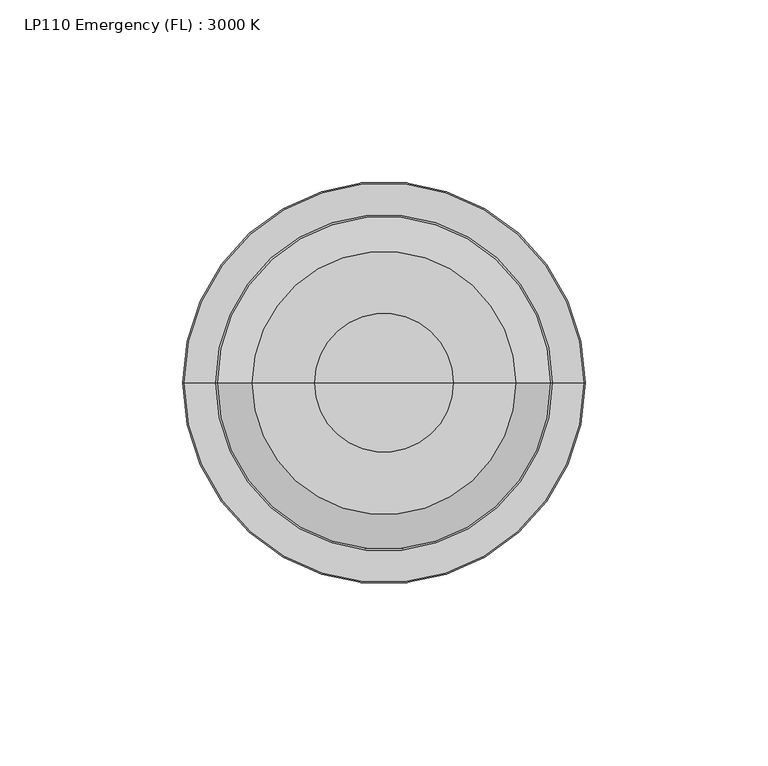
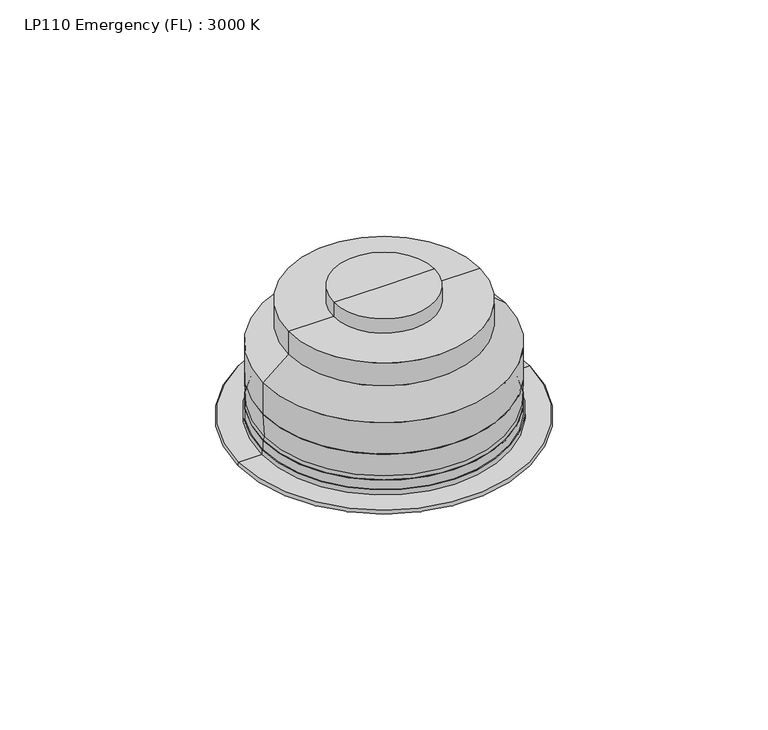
"""IFC4 building model written with IfcOpenShell, lengths in millimetres: light fixture geometry, LP110 Emergency (FL) : 3000 K."""

from ifc_helpers import new_model, si_unit, point, frame, frame_2d, origin, origin_2d, place, context, project, spatial, polyline, circle_curve, ellipse_curve, trimmed, segment, composite_curve, outline, extrude, source, transform, mapped, element, save
from ifc_brep_helpers import plane_surface, cylinder_surface, revolved_surface, advanced_brep


def lp110_emergency_fl_3000_k_65061e34(model_context):
    return source(origin(), model_context, "Body", "SolidModel", [
        extrude(outline(composite_curve([segment(trimmed(circle_curve(origin_2d(), 0.9445445), [point((-0.9445445, 0.0))], [point((0.9445445, 0.0))], False, "CARTESIAN"), True, "CONTINUOUS"), segment(trimmed(circle_curve(origin_2d(), 0.9445445), [point((0.9445445, 0.0))], [point((-0.9445445, 0.0))], False, "CARTESIAN"), True, "CONTINUOUS")], self_intersect=False)), frame((0.0, 0.0, 3990.3316649), z_axis=(0.0, 0.0, 1.0), x_axis=(1.0, 0.0, 0.0)), (0.0, 0.0, 1.0), 1.4901542),
        advanced_brep(
        [(25.068584, 0.0, 3992.3208918), (-25.068584, 0.0, 3992.3208918), (0.0, 0.0, 3992.3208918), (7.7244588, 0.0, 3987.9582117), (-7.7244588, 0.0, 3987.9582117), (0.0, 0.0, 3991.0338637)],
        [
            (0, 1, circle_curve(frame((0.0, 0.0, 3992.3208918), z_axis=(0.0, 0.0, 1.0), x_axis=(-1.0, 0.0, 0.0)), 25.068584)),
            (1, 2),
            (2, 0),
            (1, 0, circle_curve(frame((0.0, 0.0, 3992.3208918), z_axis=(0.0, 0.0, 1.0), x_axis=(-1.0, 0.0, 0.0)), 25.068584)),
            (3, 4, circle_curve(frame((0.0, 0.0, 3987.9582117), z_axis=(0.0, 0.0, 1.0), x_axis=(-1.0, 0.0, 0.0)), 7.7244588)),
            (4, 1),
            (0, 3),
            (4, 3, circle_curve(frame((0.0, 0.0, 3987.9582117), z_axis=(0.0, 0.0, 1.0), x_axis=(-1.0, 0.0, 0.0)), 7.7244588)),
            (5, 4, circle_curve(frame((0.0, 0.0, 3979.7961004), z_axis=(0.0, -1.0, 0.0), x_axis=(1.0, 0.0, 0.0)), 11.2377633)),
            (3, 5, circle_curve(frame((0.0, 0.0, 3979.7961004), z_axis=(0.0, -1.0, 0.0), x_axis=(-1.0, 0.0, 0.0)), 11.2377633)),
        ],
        [
            plane_surface(frame((0.0, 0.0, 3992.3208918), z_axis=(0.0, 0.0, 1.0), x_axis=(-1.0, 0.0, 0.0))),
            revolved_surface(polyline([(-25.068584, 0.0, 3992.3208918), (-7.7244588, 0.0, 3987.9582117)]), (0.0, 0.0, 4324.4347907), (0.0, 0.0, -1.0)),
            revolved_surface(trimmed(ellipse_curve(frame((0.0, 0.0, 3979.7961004), z_axis=(0.0, 1.0, 0.0), x_axis=(1.0, 0.0, 0.0)), 11.2377633, 11.2377633), [point((-7.7244588, 0.0, 3987.9582117))], [point((0.0, 0.0, 3991.0338637))], True, "CARTESIAN"), (0.0, 0.0, 4324.4347907), (0.0, 0.0, -1.0)),
        ],
        [
            (0, [[1, 2, 3]]),
            (0, [[4, -3, -2]]),
            (1, [[5, 6, -1, 7]]),
            (1, [[8, -7, -4, -6]]),
            (2, [[9, -5, 10]]),
            (2, [[-10, -8, -9]]),
        ],
    ),
        advanced_brep(
        [(25.068584, 0.0, 3992.3208918), (-25.068584, 0.0, 3992.3208918), (-30.7872894, 0.0, 3994.29), (30.7872894, 0.0, 3994.29), (0.0, 0.0, 3992.3208918), (0.0, 0.0, 3994.29)],
        [
            (0, 1, circle_curve(frame((0.0, 0.0, 3992.3208918), z_axis=(0.0, 0.0, 1.0), x_axis=(-1.0, 0.0, 0.0)), 25.068584)),
            (1, 2),
            (2, 3, circle_curve(frame((0.0, 0.0, 3994.29), z_axis=(0.0, 0.0, -1.0), x_axis=(-1.0, 0.0, 0.0)), 30.7872894)),
            (3, 0),
            (1, 0, circle_curve(frame((0.0, 0.0, 3992.3208918), z_axis=(0.0, 0.0, 1.0), x_axis=(-1.0, 0.0, 0.0)), 25.068584)),
            (3, 2, circle_curve(frame((0.0, 0.0, 3994.29), z_axis=(0.0, 0.0, -1.0), x_axis=(-1.0, 0.0, 0.0)), 30.7872894)),
            (4, 1),
            (0, 4),
            (2, 5),
            (5, 3),
        ],
        [
            revolved_surface(polyline([(-30.7872894, 0.0, 3994.29), (-25.068584, 0.0, 3992.3208918)]), (0.0, 0.0, 4324.4347907), (0.0, 0.0, -1.0)),
            plane_surface(frame((0.0, 0.0, 3992.3208918), z_axis=(0.0, 0.0, -1.0), x_axis=(-1.0, 0.0, 0.0))),
            plane_surface(frame((0.0, 0.0, 3994.29), z_axis=(0.0, 0.0, 1.0), x_axis=(-1.0, 0.0, 0.0))),
        ],
        [
            (0, [[1, 2, 3, 4]]),
            (0, [[5, -4, 6, -2]]),
            (1, [[7, -1, 8]]),
            (1, [[-8, -5, -7]]),
            (2, [[-3, 9, 10]]),
            (2, [[-6, -10, -9]]),
        ],
    ),
        advanced_brep(
        [(-18.9752528, 0.0, 4045.33), (18.9752528, 0.0, 4045.33), (0.0, 0.0, 4045.33), (-18.9752528, 0.0, 4050.97), (18.9752528, 0.0, 4050.97), (0.0, 0.0, 4050.97)],
        [
            (0, 1, circle_curve(frame((0.0, 0.0, 4045.33), z_axis=(0.0, 0.0, -1.0), x_axis=(1.0, 0.0, 0.0)), 18.9752528)),
            (1, 2),
            (2, 0),
            (1, 0, circle_curve(frame((0.0, 0.0, 4045.33), z_axis=(0.0, 0.0, -1.0), x_axis=(1.0, 0.0, 0.0)), 18.9752528)),
            (3, 4, circle_curve(frame((0.0, 0.0, 4050.97), z_axis=(0.0, 0.0, -1.0), x_axis=(1.0, 0.0, 0.0)), 18.9752528)),
            (4, 1),
            (0, 3),
            (4, 3, circle_curve(frame((0.0, 0.0, 4050.97), z_axis=(0.0, 0.0, -1.0), x_axis=(1.0, 0.0, 0.0)), 18.9752528)),
            (5, 4),
            (3, 5),
        ],
        [
            plane_surface(frame((0.0, 0.0, 4045.33), z_axis=(0.0, 0.0, -1.0), x_axis=(1.0, 0.0, 0.0))),
            cylinder_surface(frame((0.0, 0.0, 4324.4347907), z_axis=(0.0, 0.0, 1.0), x_axis=(1.0, 0.0, 0.0)), 18.9752528),
            plane_surface(frame((0.0, 0.0, 4050.97), z_axis=(0.0, 0.0, 1.0), x_axis=(1.0, 0.0, 0.0))),
        ],
        [
            (0, [[1, 2, 3]]),
            (0, [[4, -3, -2]]),
            (1, [[5, 6, -1, 7]]),
            (1, [[8, -7, -4, -6]]),
            (2, [[9, -5, 10]]),
            (2, [[-10, -8, -9]]),
        ],
    ),
        advanced_brep(
        [(-45.5028187, 0.0, 4001.88), (45.5028187, 0.0, 4001.88), (0.0, 0.0, 4001.88), (-45.5028187, 0.0, 4005.3318994), (45.5028187, 0.0, 4005.3318994), (0.0, 0.0, 4005.3318994)],
        [
            (0, 1, circle_curve(frame((0.0, 0.0, 4001.88), z_axis=(0.0, 0.0, -1.0), x_axis=(1.0, 0.0, 0.0)), 45.5028187)),
            (1, 2),
            (2, 0),
            (1, 0, circle_curve(frame((0.0, 0.0, 4001.88), z_axis=(0.0, 0.0, -1.0), x_axis=(1.0, 0.0, 0.0)), 45.5028187)),
            (3, 4, circle_curve(frame((0.0, 0.0, 4005.3318994), z_axis=(0.0, 0.0, -1.0), x_axis=(1.0, 0.0, 0.0)), 45.5028187)),
            (4, 1),
            (0, 3),
            (4, 3, circle_curve(frame((0.0, 0.0, 4005.3318994), z_axis=(0.0, 0.0, -1.0), x_axis=(1.0, 0.0, 0.0)), 45.5028187)),
            (5, 4),
            (3, 5),
        ],
        [
            plane_surface(frame((0.0, 0.0, 4001.88), z_axis=(0.0, 0.0, -1.0), x_axis=(1.0, 0.0, 0.0))),
            cylinder_surface(frame((0.0, 0.0, 4324.4347907), z_axis=(0.0, 0.0, 1.0), x_axis=(1.0, 0.0, 0.0)), 45.5028187),
            plane_surface(frame((0.0, 0.0, 4005.3318994), z_axis=(0.0, 0.0, 1.0), x_axis=(1.0, 0.0, 0.0))),
        ],
        [
            (0, [[1, 2, 3]]),
            (0, [[4, -3, -2]]),
            (1, [[5, 6, -1, 7]]),
            (1, [[8, -7, -4, -6]]),
            (2, [[9, -5, 10]]),
            (2, [[-10, -8, -9]]),
        ],
    ),
        advanced_brep(
        [(-45.0440523, 0.0, 4006.93), (45.0440523, 0.0, 4006.93), (0.0, 0.0, 4006.93), (-45.5, 0.0, 4015.63), (45.5, 0.0, 4015.63), (0.0, 0.0, 4015.63)],
        [
            (0, 1, circle_curve(frame((0.0, 0.0, 4006.93), z_axis=(0.0, 0.0, -1.0), x_axis=(1.0, 0.0, 0.0)), 45.0440523)),
            (1, 2),
            (2, 0),
            (1, 0, circle_curve(frame((0.0, 0.0, 4006.93), z_axis=(0.0, 0.0, -1.0), x_axis=(1.0, 0.0, 0.0)), 45.0440523)),
            (3, 4, circle_curve(frame((0.0, 0.0, 4015.63), z_axis=(0.0, 0.0, -1.0), x_axis=(1.0, 0.0, 0.0)), 45.5)),
            (4, 1),
            (0, 3),
            (4, 3, circle_curve(frame((0.0, 0.0, 4015.63), z_axis=(0.0, 0.0, -1.0), x_axis=(1.0, 0.0, 0.0)), 45.5)),
            (5, 4),
            (3, 5),
        ],
        [
            plane_surface(frame((0.0, 0.0, 4006.93), z_axis=(0.0, 0.0, -1.0), x_axis=(1.0, 0.0, 0.0))),
            revolved_surface(polyline([(45.0440523, 0.0, 4006.93), (45.5, 0.0, 4015.63)]), (0.0, 0.0, 4324.4347907), (0.0, 0.0, 1.0)),
            plane_surface(frame((0.0, 0.0, 4015.63), z_axis=(0.0, 0.0, 1.0), x_axis=(1.0, 0.0, 0.0))),
        ],
        [
            (0, [[1, 2, 3]]),
            (0, [[4, -3, -2]]),
            (1, [[5, 6, -1, 7]]),
            (1, [[8, -7, -4, -6]]),
            (2, [[9, -5, 10]]),
            (2, [[-10, -8, -9]]),
        ],
    ),
        advanced_brep(
        [(-45.5028187, 0.0, 4005.3318994), (45.5028187, 0.0, 4005.3318994), (0.0, 0.0, 4005.3318994), (-43.9047181, 0.0, 4006.93), (43.9047181, 0.0, 4006.93), (0.0, 0.0, 4006.93)],
        [
            (0, 1, circle_curve(frame((0.0, 0.0, 4005.3318994), z_axis=(0.0, 0.0, -1.0), x_axis=(1.0, 0.0, 0.0)), 45.5028187)),
            (1, 2),
            (2, 0),
            (1, 0, circle_curve(frame((0.0, 0.0, 4005.3318994), z_axis=(0.0, 0.0, -1.0), x_axis=(1.0, 0.0, 0.0)), 45.5028187)),
            (3, 4, circle_curve(frame((0.0, 0.0, 4006.93), z_axis=(0.0, 0.0, -1.0), x_axis=(1.0, 0.0, 0.0)), 43.9047181)),
            (4, 1, circle_curve(frame((43.9047181, 0.0, 4005.3318994), z_axis=(0.0, 1.0, 0.0), x_axis=(1.0, 0.0, 0.0)), 1.5981006)),
            (0, 3, circle_curve(frame((-43.9047181, 0.0, 4005.3318994), z_axis=(0.0, 1.0, 0.0), x_axis=(-1.0, 0.0, 0.0)), 1.5981006)),
            (4, 3, circle_curve(frame((0.0, 0.0, 4006.93), z_axis=(0.0, 0.0, -1.0), x_axis=(1.0, 0.0, 0.0)), 43.9047181)),
            (5, 4),
            (3, 5),
        ],
        [
            plane_surface(frame((0.0, 0.0, 4005.3318994), z_axis=(0.0, 0.0, -1.0), x_axis=(1.0, 0.0, 0.0))),
            revolved_surface(trimmed(ellipse_curve(frame((43.9047181, 0.0, 4005.3318994), z_axis=(0.0, -1.0, 0.0), x_axis=(1.0, 0.0, 0.0)), 1.5981006, 1.5981006), [point((45.5028187, 0.0, 4005.3318994))], [point((43.9047181, 0.0, 4006.93))], True, "CARTESIAN"), (0.0, 0.0, 3993.7591953), (0.0, 0.0, 1.0)),
            plane_surface(frame((0.0, 0.0, 4006.93), z_axis=(0.0, 0.0, 1.0), x_axis=(1.0, 0.0, 0.0))),
        ],
        [
            (0, [[1, 2, 3]]),
            (0, [[4, -3, -2]]),
            (1, [[5, 6, -1, 7]]),
            (1, [[8, -7, -4, -6]]),
            (2, [[9, -5, 10]]),
            (2, [[-10, -8, -9]]),
        ],
    ),
        advanced_brep(
        [(-46.0, 0.0, 4000.0), (46.0, 0.0, 4000.0), (0.0, 0.0, 4000.0), (-46.0, 0.0, 4001.88), (46.0, 0.0, 4001.88), (0.0, 0.0, 4001.88)],
        [
            (0, 1, circle_curve(frame((0.0, 0.0, 4000.0), z_axis=(0.0, 0.0, -1.0), x_axis=(1.0, 0.0, 0.0)), 46.0)),
            (1, 2),
            (2, 0),
            (1, 0, circle_curve(frame((0.0, 0.0, 4000.0), z_axis=(0.0, 0.0, -1.0), x_axis=(1.0, 0.0, 0.0)), 46.0)),
            (3, 4, circle_curve(frame((0.0, 0.0, 4001.88), z_axis=(0.0, 0.0, -1.0), x_axis=(1.0, 0.0, 0.0)), 46.0)),
            (4, 1),
            (0, 3),
            (4, 3, circle_curve(frame((0.0, 0.0, 4001.88), z_axis=(0.0, 0.0, -1.0), x_axis=(1.0, 0.0, 0.0)), 46.0)),
            (5, 4),
            (3, 5),
        ],
        [
            plane_surface(frame((0.0, 0.0, 4000.0), z_axis=(0.0, 0.0, -1.0), x_axis=(1.0, 0.0, 0.0))),
            cylinder_surface(frame((0.0, 0.0, 3993.7591953), z_axis=(0.0, 0.0, 1.0), x_axis=(1.0, 0.0, 0.0)), 46.0),
            plane_surface(frame((0.0, 0.0, 4001.88), z_axis=(0.0, 0.0, 1.0), x_axis=(1.0, 0.0, 0.0))),
        ],
        [
            (0, [[1, 2, 3]]),
            (0, [[4, -3, -2]]),
            (1, [[5, 6, -1, 7]]),
            (1, [[8, -7, -4, -6]]),
            (2, [[9, -5, 10]]),
            (2, [[-10, -8, -9]]),
        ],
    ),
        advanced_brep(
        [(-18.9752528, 0.0, 4045.33), (18.9752528, 0.0, 4045.33), (0.0, 0.0, 4045.33), (-18.9752528, 0.0, 4050.97), (18.9752528, 0.0, 4050.97), (0.0, 0.0, 4050.97)],
        [
            (0, 1, circle_curve(frame((0.0, 0.0, 4045.33), z_axis=(0.0, 0.0, -1.0), x_axis=(1.0, 0.0, 0.0)), 18.9752528)),
            (1, 2),
            (2, 0),
            (1, 0, circle_curve(frame((0.0, 0.0, 4045.33), z_axis=(0.0, 0.0, -1.0), x_axis=(1.0, 0.0, 0.0)), 18.9752528)),
            (3, 4, circle_curve(frame((0.0, 0.0, 4050.97), z_axis=(0.0, 0.0, -1.0), x_axis=(1.0, 0.0, 0.0)), 18.9752528)),
            (4, 1),
            (0, 3),
            (4, 3, circle_curve(frame((0.0, 0.0, 4050.97), z_axis=(0.0, 0.0, -1.0), x_axis=(1.0, 0.0, 0.0)), 18.9752528)),
            (5, 4),
            (3, 5),
        ],
        [
            plane_surface(frame((0.0, 0.0, 4045.33), z_axis=(0.0, 0.0, -1.0), x_axis=(1.0, 0.0, 0.0))),
            cylinder_surface(frame((0.0, 0.0, 4324.4347907), z_axis=(0.0, 0.0, 1.0), x_axis=(1.0, 0.0, 0.0)), 18.9752528),
            plane_surface(frame((0.0, 0.0, 4050.97), z_axis=(0.0, 0.0, 1.0), x_axis=(1.0, 0.0, 0.0))),
        ],
        [
            (0, [[1, 2, 3]]),
            (0, [[4, -3, -2]]),
            (1, [[5, 6, -1, 7]]),
            (1, [[8, -7, -4, -6]]),
            (2, [[9, -5, 10]]),
            (2, [[-10, -8, -9]]),
        ],
    ),
        advanced_brep(
        [(-45.5, 0.0, 4015.63), (45.5, 0.0, 4015.63), (0.0, 0.0, 4015.63), (-45.5, 0.0, 4028.2753696), (45.5, 0.0, 4028.2753696), (-35.9723705, 0.0, 4036.27), (35.9723705, 0.0, 4036.27), (-35.9723705, 0.0, 4045.33), (35.9723705, 0.0, 4045.33), (0.0, 0.0, 4045.33)],
        [
            (0, 1, circle_curve(frame((0.0, 0.0, 4015.63), z_axis=(0.0, 0.0, -1.0), x_axis=(1.0, 0.0, 0.0)), 45.5)),
            (1, 2),
            (2, 0),
            (1, 0, circle_curve(frame((0.0, 0.0, 4015.63), z_axis=(0.0, 0.0, -1.0), x_axis=(1.0, 0.0, 0.0)), 45.5)),
            (3, 4, circle_curve(frame((0.0, 0.0, 4028.2753696), z_axis=(0.0, 0.0, -1.0), x_axis=(1.0, 0.0, 0.0)), 45.5)),
            (4, 1),
            (0, 3),
            (4, 3, circle_curve(frame((0.0, 0.0, 4028.2753696), z_axis=(0.0, 0.0, -1.0), x_axis=(1.0, 0.0, 0.0)), 45.5)),
            (5, 6, circle_curve(frame((0.0, 0.0, 4036.27), z_axis=(0.0, 0.0, -1.0), x_axis=(1.0, 0.0, 0.0)), 35.9723705)),
            (6, 4),
            (3, 5),
            (6, 5, circle_curve(frame((0.0, 0.0, 4036.27), z_axis=(0.0, 0.0, -1.0), x_axis=(1.0, 0.0, 0.0)), 35.9723705)),
            (7, 8, circle_curve(frame((0.0, 0.0, 4045.33), z_axis=(0.0, 0.0, -1.0), x_axis=(1.0, 0.0, 0.0)), 35.9723705)),
            (8, 6),
            (5, 7),
            (8, 7, circle_curve(frame((0.0, 0.0, 4045.33), z_axis=(0.0, 0.0, -1.0), x_axis=(1.0, 0.0, 0.0)), 35.9723705)),
            (9, 8),
            (7, 9),
        ],
        [
            plane_surface(frame((0.0, 0.0, 4015.63), z_axis=(0.0, 0.0, -1.0), x_axis=(1.0, 0.0, 0.0))),
            cylinder_surface(frame((0.0, 0.0, 4324.4347907), z_axis=(0.0, 0.0, 1.0), x_axis=(1.0, 0.0, 0.0)), 45.5),
            revolved_surface(polyline([(45.5, 0.0, 4028.2753696), (35.9723705, 0.0, 4036.27)]), (0.0, 0.0, 4324.4347907), (0.0, 0.0, 1.0)),
            cylinder_surface(frame((0.0, 0.0, 4324.4347907), z_axis=(0.0, 0.0, 1.0), x_axis=(1.0, 0.0, 0.0)), 35.9723705),
            plane_surface(frame((0.0, 0.0, 4045.33), z_axis=(0.0, 0.0, 1.0), x_axis=(1.0, 0.0, 0.0))),
        ],
        [
            (0, [[1, 2, 3]]),
            (0, [[4, -3, -2]]),
            (1, [[5, 6, -1, 7]]),
            (1, [[8, -7, -4, -6]]),
            (2, [[9, 10, -5, 11]]),
            (2, [[12, -11, -8, -10]]),
            (3, [[13, 14, -9, 15]]),
            (3, [[16, -15, -12, -14]]),
            (4, [[17, -13, 18]]),
            (4, [[-18, -16, -17]]),
        ],
    ),
        extrude(outline(composite_curve([segment(trimmed(circle_curve(frame_2d((0.153956, -0.1564231)), 40.0), [point((-39.846044, -0.1564231))], [point((40.153956, -0.1564231))], False, "CARTESIAN"), True, "CONTINUOUS"), segment(trimmed(circle_curve(frame_2d((0.153956, -0.1564231)), 40.0), [point((40.153956, -0.1564231))], [point((-39.846044, -0.1564231))], False, "CARTESIAN"), True, "CONTINUOUS")], self_intersect=False), holes=[composite_curve([segment(trimmed(circle_curve(frame_2d((0.153956, -0.1564231)), 29.1123547), [point((-28.9583987, -0.1564231))], [point((29.2663107, -0.1564231))], True, "CARTESIAN"), True, "CONTINUOUS"), segment(trimmed(circle_curve(frame_2d((0.153956, -0.1564231)), 29.1123547), [point((29.2663107, -0.1564231))], [point((-28.9583987, -0.1564231))], True, "CARTESIAN"), True, "CONTINUOUS")], self_intersect=False)]), frame((0.0, 0.0, 3994.29), z_axis=(0.0, 0.0, 1.0), x_axis=(1.0, 0.0, 0.0)), (0.0, 0.0, 1.0), 0.5),
        advanced_brep(
        [(-45.5028187, 0.0, 4001.88), (45.5028187, 0.0, 4001.88), (0.0, 0.0, 4001.88), (-45.5028187, 0.0, 4005.3318994), (45.5028187, 0.0, 4005.3318994), (0.0, 0.0, 4005.3318994)],
        [
            (0, 1, circle_curve(frame((0.0, 0.0, 4001.88), z_axis=(0.0, 0.0, -1.0), x_axis=(1.0, 0.0, 0.0)), 45.5028187)),
            (1, 2),
            (2, 0),
            (1, 0, circle_curve(frame((0.0, 0.0, 4001.88), z_axis=(0.0, 0.0, -1.0), x_axis=(1.0, 0.0, 0.0)), 45.5028187)),
            (3, 4, circle_curve(frame((0.0, 0.0, 4005.3318994), z_axis=(0.0, 0.0, -1.0), x_axis=(1.0, 0.0, 0.0)), 45.5028187)),
            (4, 1),
            (0, 3),
            (4, 3, circle_curve(frame((0.0, 0.0, 4005.3318994), z_axis=(0.0, 0.0, -1.0), x_axis=(1.0, 0.0, 0.0)), 45.5028187)),
            (5, 4),
            (3, 5),
        ],
        [
            plane_surface(frame((0.0, 0.0, 4001.88), z_axis=(0.0, 0.0, -1.0), x_axis=(1.0, 0.0, 0.0))),
            cylinder_surface(frame((0.0, 0.0, 4324.4347907), z_axis=(0.0, 0.0, 1.0), x_axis=(1.0, 0.0, 0.0)), 45.5028187),
            plane_surface(frame((0.0, 0.0, 4005.3318994), z_axis=(0.0, 0.0, 1.0), x_axis=(1.0, 0.0, 0.0))),
        ],
        [
            (0, [[1, 2, 3]]),
            (0, [[4, -3, -2]]),
            (1, [[5, 6, -1, 7]]),
            (1, [[8, -7, -4, -6]]),
            (2, [[9, -5, 10]]),
            (2, [[-10, -8, -9]]),
        ],
    ),
        advanced_brep(
        [(-45.0440523, 0.0, 4006.93), (45.0440523, 0.0, 4006.93), (0.0, 0.0, 4006.93), (-45.5, 0.0, 4015.63), (45.5, 0.0, 4015.63), (0.0, 0.0, 4015.63)],
        [
            (0, 1, circle_curve(frame((0.0, 0.0, 4006.93), z_axis=(0.0, 0.0, -1.0), x_axis=(1.0, 0.0, 0.0)), 45.0440523)),
            (1, 2),
            (2, 0),
            (1, 0, circle_curve(frame((0.0, 0.0, 4006.93), z_axis=(0.0, 0.0, -1.0), x_axis=(1.0, 0.0, 0.0)), 45.0440523)),
            (3, 4, circle_curve(frame((0.0, 0.0, 4015.63), z_axis=(0.0, 0.0, -1.0), x_axis=(1.0, 0.0, 0.0)), 45.5)),
            (4, 1),
            (0, 3),
            (4, 3, circle_curve(frame((0.0, 0.0, 4015.63), z_axis=(0.0, 0.0, -1.0), x_axis=(1.0, 0.0, 0.0)), 45.5)),
            (5, 4),
            (3, 5),
        ],
        [
            plane_surface(frame((0.0, 0.0, 4006.93), z_axis=(0.0, 0.0, -1.0), x_axis=(1.0, 0.0, 0.0))),
            revolved_surface(polyline([(45.0440523, 0.0, 4006.93), (45.5, 0.0, 4015.63)]), (0.0, 0.0, 4324.4347907), (0.0, 0.0, 1.0)),
            plane_surface(frame((0.0, 0.0, 4015.63), z_axis=(0.0, 0.0, 1.0), x_axis=(1.0, 0.0, 0.0))),
        ],
        [
            (0, [[1, 2, 3]]),
            (0, [[4, -3, -2]]),
            (1, [[5, 6, -1, 7]]),
            (1, [[8, -7, -4, -6]]),
            (2, [[9, -5, 10]]),
            (2, [[-10, -8, -9]]),
        ],
    ),
        advanced_brep(
        [(-45.5028187, 0.0, 4005.3318994), (45.5028187, 0.0, 4005.3318994), (0.0, 0.0, 4005.3318994), (-43.9047181, 0.0, 4006.93), (43.9047181, 0.0, 4006.93), (0.0, 0.0, 4006.93)],
        [
            (0, 1, circle_curve(frame((0.0, 0.0, 4005.3318994), z_axis=(0.0, 0.0, -1.0), x_axis=(1.0, 0.0, 0.0)), 45.5028187)),
            (1, 2),
            (2, 0),
            (1, 0, circle_curve(frame((0.0, 0.0, 4005.3318994), z_axis=(0.0, 0.0, -1.0), x_axis=(1.0, 0.0, 0.0)), 45.5028187)),
            (3, 4, circle_curve(frame((0.0, 0.0, 4006.93), z_axis=(0.0, 0.0, -1.0), x_axis=(1.0, 0.0, 0.0)), 43.9047181)),
            (4, 1, circle_curve(frame((43.9047181, 0.0, 4005.3318994), z_axis=(0.0, 1.0, 0.0), x_axis=(1.0, 0.0, 0.0)), 1.5981006)),
            (0, 3, circle_curve(frame((-43.9047181, 0.0, 4005.3318994), z_axis=(0.0, 1.0, 0.0), x_axis=(-1.0, 0.0, 0.0)), 1.5981006)),
            (4, 3, circle_curve(frame((0.0, 0.0, 4006.93), z_axis=(0.0, 0.0, -1.0), x_axis=(1.0, 0.0, 0.0)), 43.9047181)),
            (5, 4),
            (3, 5),
        ],
        [
            plane_surface(frame((0.0, 0.0, 4005.3318994), z_axis=(0.0, 0.0, -1.0), x_axis=(1.0, 0.0, 0.0))),
            revolved_surface(trimmed(ellipse_curve(frame((43.9047181, 0.0, 4005.3318994), z_axis=(0.0, -1.0, 0.0), x_axis=(1.0, 0.0, 0.0)), 1.5981006, 1.5981006), [point((45.5028187, 0.0, 4005.3318994))], [point((43.9047181, 0.0, 4006.93))], True, "CARTESIAN"), (0.0, 0.0, 3993.7591953), (0.0, 0.0, 1.0)),
            plane_surface(frame((0.0, 0.0, 4006.93), z_axis=(0.0, 0.0, 1.0), x_axis=(1.0, 0.0, 0.0))),
        ],
        [
            (0, [[1, 2, 3]]),
            (0, [[4, -3, -2]]),
            (1, [[5, 6, -1, 7]]),
            (1, [[8, -7, -4, -6]]),
            (2, [[9, -5, 10]]),
            (2, [[-10, -8, -9]]),
        ],
    ),
        advanced_brep(
        [(-46.0, 0.0, 4000.0), (46.0, 0.0, 4000.0), (0.0, 0.0, 4000.0), (-46.0, 0.0, 4001.88), (46.0, 0.0, 4001.88), (0.0, 0.0, 4001.88)],
        [
            (0, 1, circle_curve(frame((0.0, 0.0, 4000.0), z_axis=(0.0, 0.0, -1.0), x_axis=(1.0, 0.0, 0.0)), 46.0)),
            (1, 2),
            (2, 0),
            (1, 0, circle_curve(frame((0.0, 0.0, 4000.0), z_axis=(0.0, 0.0, -1.0), x_axis=(1.0, 0.0, 0.0)), 46.0)),
            (3, 4, circle_curve(frame((0.0, 0.0, 4001.88), z_axis=(0.0, 0.0, -1.0), x_axis=(1.0, 0.0, 0.0)), 46.0)),
            (4, 1),
            (0, 3),
            (4, 3, circle_curve(frame((0.0, 0.0, 4001.88), z_axis=(0.0, 0.0, -1.0), x_axis=(1.0, 0.0, 0.0)), 46.0)),
            (5, 4),
            (3, 5),
        ],
        [
            plane_surface(frame((0.0, 0.0, 4000.0), z_axis=(0.0, 0.0, -1.0), x_axis=(1.0, 0.0, 0.0))),
            cylinder_surface(frame((0.0, 0.0, 3993.7591953), z_axis=(0.0, 0.0, 1.0), x_axis=(1.0, 0.0, 0.0)), 46.0),
            plane_surface(frame((0.0, 0.0, 4001.88), z_axis=(0.0, 0.0, 1.0), x_axis=(1.0, 0.0, 0.0))),
        ],
        [
            (0, [[1, 2, 3]]),
            (0, [[4, -3, -2]]),
            (1, [[5, 6, -1, 7]]),
            (1, [[8, -7, -4, -6]]),
            (2, [[9, -5, 10]]),
            (2, [[-10, -8, -9]]),
        ],
    ),
        advanced_brep(
        [(-54.4320431, 0.0, 3998.2898924), (54.4320431, 0.0, 3998.2898924), (47.8497028, 0.0, 3994.79), (-47.8497028, 0.0, 3994.79), (-54.7151231, 0.0, 4000.0), (54.7151231, 0.0, 4000.0), (-26.7465724, 0.0, 4000.0), (26.7465724, 0.0, 4000.0), (26.7465724, 0.0, 3994.79), (-26.7465724, 0.0, 3994.79)],
        [
            (0, 1, circle_curve(frame((0.0, 0.0, 3998.2898924), z_axis=(0.0, 0.0, -1.0), x_axis=(1.0, 0.0, 0.0)), 54.4320431)),
            (1, 2),
            (2, 3, circle_curve(frame((0.0, 0.0, 3994.79), z_axis=(0.0, 0.0, 1.0), x_axis=(1.0, 0.0, 0.0)), 47.8497028)),
            (3, 0),
            (1, 0, circle_curve(frame((0.0, 0.0, 3998.2898924), z_axis=(0.0, 0.0, -1.0), x_axis=(1.0, 0.0, 0.0)), 54.4320431)),
            (3, 2, circle_curve(frame((0.0, 0.0, 3994.79), z_axis=(0.0, 0.0, 1.0), x_axis=(1.0, 0.0, 0.0)), 47.8497028)),
            (4, 5, circle_curve(frame((0.0, 0.0, 4000.0), z_axis=(0.0, 0.0, -1.0), x_axis=(1.0, 0.0, 0.0)), 54.7151231)),
            (5, 1, circle_curve(frame((53.9198655, 0.0, 3999.2531583), z_axis=(0.0, 1.0, 0.0), x_axis=(1.0, 0.0, 0.0)), 1.0909661)),
            (0, 4, circle_curve(frame((-53.9198655, 0.0, 3999.2531583), z_axis=(0.0, 1.0, 0.0), x_axis=(-1.0, 0.0, 0.0)), 1.0909661)),
            (5, 4, circle_curve(frame((0.0, 0.0, 4000.0), z_axis=(0.0, 0.0, -1.0), x_axis=(1.0, 0.0, 0.0)), 54.7151231)),
            (6, 7, circle_curve(frame((0.0, 0.0, 4000.0), z_axis=(0.0, 0.0, -1.0), x_axis=(1.0, 0.0, 0.0)), 26.7465724)),
            (7, 5),
            (4, 6),
            (7, 6, circle_curve(frame((0.0, 0.0, 4000.0), z_axis=(0.0, 0.0, -1.0), x_axis=(1.0, 0.0, 0.0)), 26.7465724)),
            (2, 8),
            (8, 9, circle_curve(frame((0.0, 0.0, 3994.79), z_axis=(0.0, 0.0, 1.0), x_axis=(1.0, 0.0, 0.0)), 26.7465724)),
            (9, 3),
            (9, 8, circle_curve(frame((0.0, 0.0, 3994.79), z_axis=(0.0, 0.0, 1.0), x_axis=(1.0, 0.0, 0.0)), 26.7465724)),
            (8, 7),
            (6, 9),
        ],
        [
            revolved_surface(polyline([(47.8497028, 0.0, 3994.79), (54.4320431, 0.0, 3998.2898924)]), (0.0, 0.0, 4324.4347907), (0.0, 0.0, 1.0)),
            revolved_surface(trimmed(ellipse_curve(frame((53.9198655, 0.0, 3999.2531583), z_axis=(0.0, -1.0, 0.0), x_axis=(1.0, 0.0, 0.0)), 1.0909661, 1.0909661), [point((54.4320431, 0.0, 3998.2898924))], [point((54.7151231, 0.0, 4000.0))], True, "CARTESIAN"), (0.0, 0.0, 4324.4347907), (0.0, 0.0, 1.0)),
            plane_surface(frame((0.0, 0.0, 4000.0), z_axis=(0.0, 0.0, 1.0), x_axis=(1.0, 0.0, 0.0))),
            plane_surface(frame((0.0, 0.0, 3994.79), z_axis=(0.0, 0.0, -1.0), x_axis=(1.0, 0.0, 0.0))),
            revolved_surface(polyline([(26.7465724, 0.0, 4000.0), (26.7465724, 0.0, 3994.79)]), (0.0, 0.0, 4324.4347907), (0.0, 0.0, 1.0)),
        ],
        [
            (0, [[1, 2, 3, 4]]),
            (0, [[5, -4, 6, -2]]),
            (1, [[7, 8, -1, 9]]),
            (1, [[10, -9, -5, -8]]),
            (2, [[11, 12, -7, 13]]),
            (2, [[14, -13, -10, -12]]),
            (3, [[-3, 15, 16, 17]]),
            (3, [[-6, -17, 18, -15]]),
            (4, [[-16, 19, -11, 20]]),
            (4, [[-18, -20, -14, -19]]),
        ],
    ),
    ])


if __name__ == "__main__":
    model = new_model("IFC4")
    model_context = context("Model", 3, world=origin())
    ifc_project = project(units=[si_unit("LENGTHUNIT", "METRE", prefix="MILLI")], contexts=[model_context])
    site = spatial("IfcSite", under=ifc_project)
    building = spatial("IfcBuilding", under=site)
    placement = place(None, origin())
    lp110_emergency_fl_3000_k_shape = lp110_emergency_fl_3000_k_65061e34(model_context)
    element("IfcLightFixture", 1, ObjectType="LP110 Emergency (FL) : 3000 K", at=placement, inside=building, context=model_context, shape_type="MappedRepresentation", body=[
        mapped(lp110_emergency_fl_3000_k_shape, transform((0.0, 0.0, 0.0), x_axis=(1.0, 0.0, 0.0), y_axis=(0.0, 1.0, 0.0), z_axis=(0.0, 0.0, 1.0))),
    ])
    save(model, "model.ifc")
